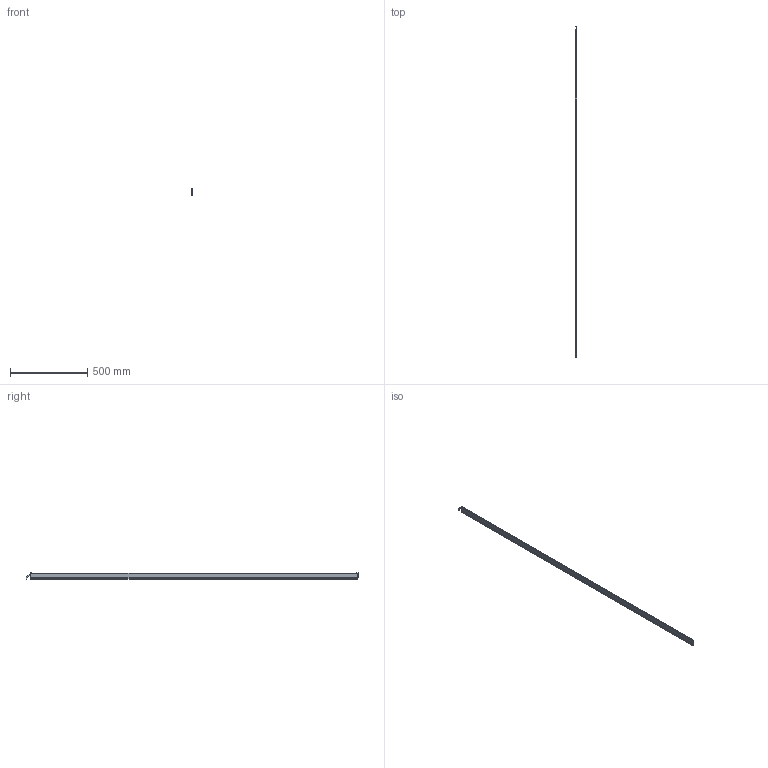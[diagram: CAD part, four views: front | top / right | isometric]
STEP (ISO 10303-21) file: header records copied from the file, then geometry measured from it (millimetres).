
FILE_DESCRIPTION (( 'STEP AP214' ), '1' );
FILE_NAME ('ILG-L-K1-2127mm.STEP', '2017-07-11T07:21:41', ( '' ), ( '' ), 'SwSTEP 2.0', 'SolidWorks 2016', '' );
FILE_SCHEMA (( 'AUTOMOTIVE_DESIGN' ));
Length unit declared in the file: millimetre
Products named in the file (1): ILG-L-K1-2127mm
Bounding box: 9 x 2155.25 x 40.71 mm (x, y, z)
Volume: 299856.6 mm3; surface area: 417746.1 mm2
Topology: 9 solids, 9 shells, 432 faces, 1114 edges, 702 vertices
Faces by surface type: plane 205, cylinder 153, cone 64, torus 10
Entity records: 18006 total; most frequent: CARTESIAN_POINT 2397, DIRECTION 2342, ORIENTED_EDGE 2212, EDGE_CURVE 1106, AXIS2_PLACEMENT_3D 855, VERTEX_POINT 702, LINE 632, VECTOR 632
